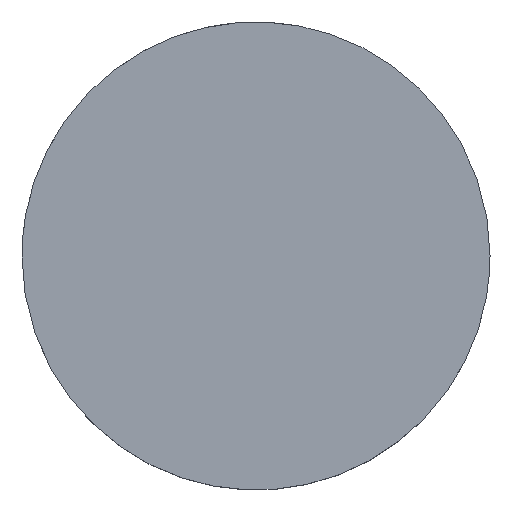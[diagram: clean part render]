
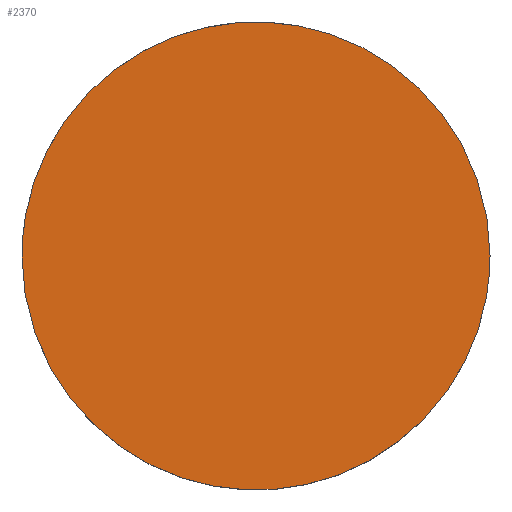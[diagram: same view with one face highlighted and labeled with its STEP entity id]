
A CAD part, top view. The second image highlights one B-rep face of the part: STEP entity #2370.
In plain terms, the highlighted planar face has unit normal (0, 0, 1).
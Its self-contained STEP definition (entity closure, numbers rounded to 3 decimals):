
#190 = CARTESIAN_POINT ('', (-12.5, 0., -16.959));
#200 = VERTEX_POINT ('', #190);
#260 = CARTESIAN_POINT ('', (12.5, 0., -16.959));
#270 = VERTEX_POINT ('', #260);
#280 = CARTESIAN_POINT ('', (12.5, 0., -16.959));
#290 = CARTESIAN_POINT ('', (12.5, 12.5, -16.959));
#300 = CARTESIAN_POINT ('', (0., 12.5, -16.959));
#310 = CARTESIAN_POINT ('', (-12.5, 12.5, -16.959));
#320 = CARTESIAN_POINT ('', (-12.5, 0., -16.959));
#330 = (
   BOUNDED_CURVE ()
   B_SPLINE_CURVE (2, (#280, #290, #300, #310, #320), .UNSPECIFIED., .F., .U.)
   B_SPLINE_CURVE_WITH_KNOTS ((3, 2, 3), (0., 1.571, 3.142), .UNSPECIFIED.)
   CURVE ()
   GEOMETRIC_REPRESENTATION_ITEM ()
   RATIONAL_B_SPLINE_CURVE ((1., 0.707, 1., 0.707, 1.))
   REPRESENTATION_ITEM ('')
);
#340 = EDGE_CURVE ('', #270, #200, #330, .T.);
#580 = CARTESIAN_POINT ('', (-12.5, 0., -16.959));
#590 = CARTESIAN_POINT ('', (-12.5, -12.5, -16.959));
#600 = CARTESIAN_POINT ('', (0., -12.5, -16.959));
#610 = CARTESIAN_POINT ('', (12.5, -12.5, -16.959));
#620 = CARTESIAN_POINT ('', (12.5, 0., -16.959));
#630 = (
   BOUNDED_CURVE ()
   B_SPLINE_CURVE (2, (#580, #590, #600, #610, #620), .UNSPECIFIED., .F., .U.)
   B_SPLINE_CURVE_WITH_KNOTS ((3, 2, 3), (3.142, 4.712, 6.283), .UNSPECIFIED.)
   CURVE ()
   GEOMETRIC_REPRESENTATION_ITEM ()
   RATIONAL_B_SPLINE_CURVE ((1., 0.707, 1., 0.707, 1.))
   REPRESENTATION_ITEM ('')
);
#640 = EDGE_CURVE ('', #200, #270, #630, .T.);
#2280 = ORIENTED_EDGE ('', *, *, #340, .T.);
#2290 = ORIENTED_EDGE ('', *, *, #640, .T.);
#2300 = EDGE_LOOP ('', (#2280, #2290));
#2310 = FACE_OUTER_BOUND ('', #2300, .T.);
#2320 = CARTESIAN_POINT ('', (0., 25.704, -16.959));
#2330 = DIRECTION ('', (0., 0., 1.));
#2340 = DIRECTION ('', (-0.707, -0.707, 0.));
#2350 = AXIS2_PLACEMENT_3D ('', #2320, #2330, #2340);
#2360 = PLANE ('', #2350);
#2370 = ADVANCED_FACE ('', (#2310), #2360, .T.);
